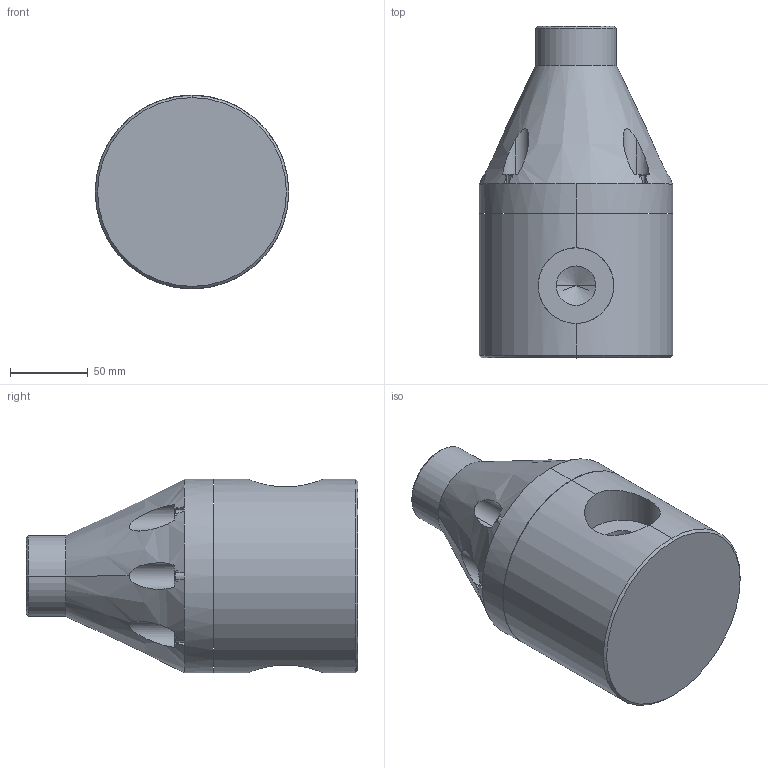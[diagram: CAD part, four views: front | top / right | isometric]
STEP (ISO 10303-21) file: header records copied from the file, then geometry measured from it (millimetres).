
FILE_DESCRIPTION (( 'STEP AP203' ), '1' );
FILE_NAME ('GBP1500-SOC.STEP', '2015-04-27T10:10:55', ( 'Dan Bernard' ), ( '' ), 'SwSTEP 2.0', 'SolidWorks 2008', '' );
FILE_SCHEMA (( 'CONFIG_CONTROL_DESIGN' ));
Length unit declared in the file: inch
Products named in the file (1): GBP1500-SOC
Bounding box: 124.46 x 213.36 x 124.46 mm (x, y, z)
Volume: 1787663.8 mm3; surface area: 109248.6 mm2
Topology: 1 solids, 1 shells, 197 faces, 496 edges, 316 vertices
Faces by surface type: plane 125, cylinder 44, cone 16, torus 12
Entity records: 6547 total; most frequent: CARTESIAN_POINT 1760, ORIENTED_EDGE 984, DIRECTION 962, EDGE_CURVE 492, AXIS2_PLACEMENT_3D 330, VERTEX_POINT 316, VECTOR 302, LINE 302
